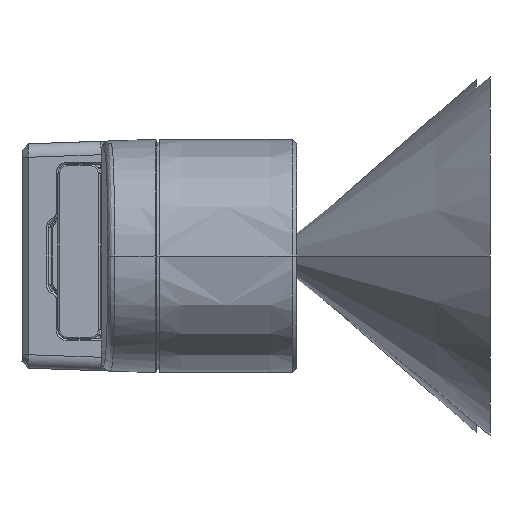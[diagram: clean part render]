
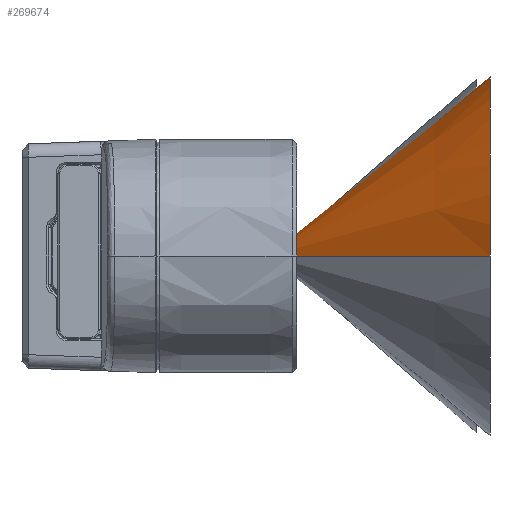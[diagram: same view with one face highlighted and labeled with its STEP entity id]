
A CAD part, left-side view. The second image highlights one B-rep face of the part: STEP entity #269674.
In plain terms, the highlighted conical face has half-angle 39 degrees and reference radius 10.196 mm.
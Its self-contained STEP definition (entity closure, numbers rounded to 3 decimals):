
#269625=DIRECTION('',(-0.629,0.,0.777));
#269626=VECTOR('',#269625,31.767);
#269627=CARTESIAN_POINT('',(0.,0.,3.104));
#269628=LINE('',#269627,#269626);
#269632=CARTESIAN_POINT('',(0.,0.,27.791));
#269633=DIRECTION('',(0.,0.,-1.));
#269634=DIRECTION('',(-1.,0.,0.));
#269635=AXIS2_PLACEMENT_3D('',#269632,#269633,#269634);
#269640=DIRECTION('',(0.629,0.,0.777));
#269641=VECTOR('',#269640,31.767);
#269642=CARTESIAN_POINT('',(0.,0.,3.104));
#269643=LINE('',#269642,#269641);
#269655=CARTESIAN_POINT('',(-19.991,0.,27.791));
#269656=CARTESIAN_POINT('',(19.991,0.,27.791));
#269657=VERTEX_POINT('',#269655);
#269658=VERTEX_POINT('',#269656);
#269659=CARTESIAN_POINT('',(0.,0.,3.104));
#269660=VERTEX_POINT('',#269659);
#269661=CARTESIAN_POINT('',(0.,0.,15.695));
#269662=DIRECTION('',(0.,0.,1.));
#269663=DIRECTION('',(1.,0.,0.));
#269664=AXIS2_PLACEMENT_3D('',#269661,#269662,#269663);
#269665=CONICAL_SURFACE('',#269664,10.196,39.);
#269667=ORIENTED_EDGE('',*,*,#269666,.T.);
#269669=ORIENTED_EDGE('',*,*,#269668,.T.);
#269671=ORIENTED_EDGE('',*,*,#269670,.F.);
#269672=EDGE_LOOP('',(#269667,#269669,#269671));
#269673=FACE_OUTER_BOUND('',#269672,.F.);
#269674=ADVANCED_FACE('',(#269673),#269665,.F.);
#269636=CIRCLE('',#269635,19.991);
#269666=EDGE_CURVE('',#269660,#269657,#269628,.T.);
#269668=EDGE_CURVE('',#269657,#269658,#269636,.T.);
#269670=EDGE_CURVE('',#269660,#269658,#269643,.T.);
